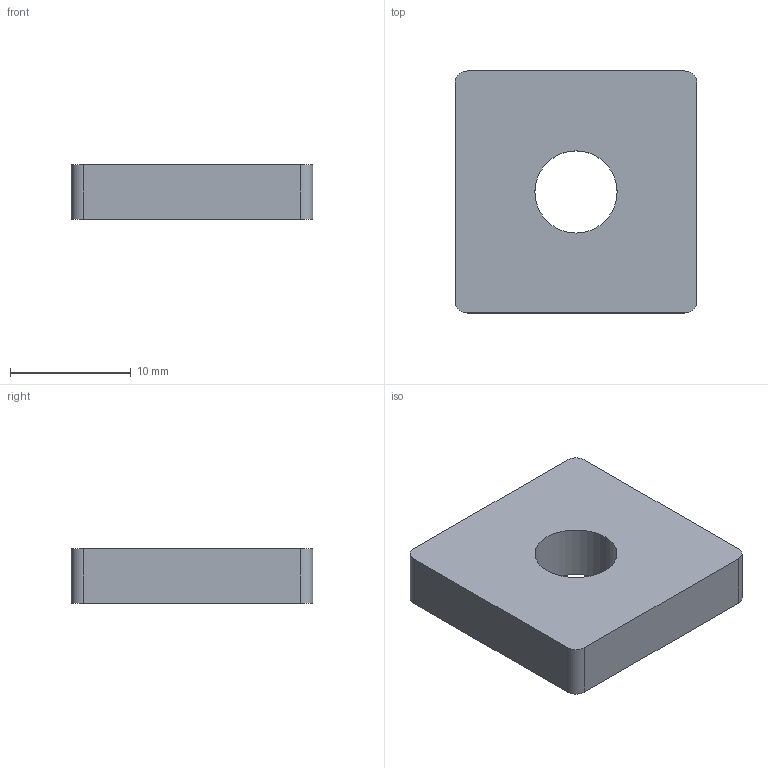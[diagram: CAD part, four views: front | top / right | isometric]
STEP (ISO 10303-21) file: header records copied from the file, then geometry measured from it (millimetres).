
FILE_DESCRIPTION((''),'2;1');
FILE_NAME('FASN-M8','2023-03-03T',('jenni.wallner'),(''),'PRO/ENGINEER BY PARAMETRIC TECHNOLOGY CORPORATION, 2012420','PRO/ENGINEER BY PARAMETRIC TECHNOLOGY CORPORATION, 2012420','');
FILE_SCHEMA(('CONFIG_CONTROL_DESIGN'));
Length unit declared in the file: inch
Products named in the file (1): FASN-M8
Bounding box: 20 x 20 x 4.5 mm (x, y, z)
Volume: 1632.7 mm3; surface area: 1174.1 mm2
Topology: 1 solids, 1 shells, 12 faces, 30 edges, 20 vertices
Faces by surface type: cylinder 6, plane 6
Entity records: 410 total; most frequent: DIRECTION 66, CARTESIAN_POINT 62, ORIENTED_EDGE 60, EDGE_CURVE 30, AXIS2_PLACEMENT_3D 24, VERTEX_POINT 20, VECTOR 18, LINE 18
